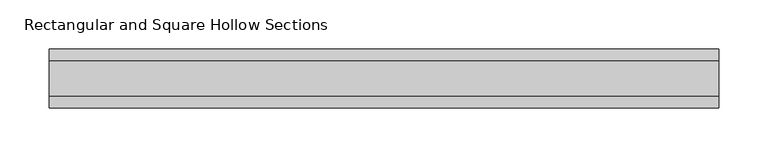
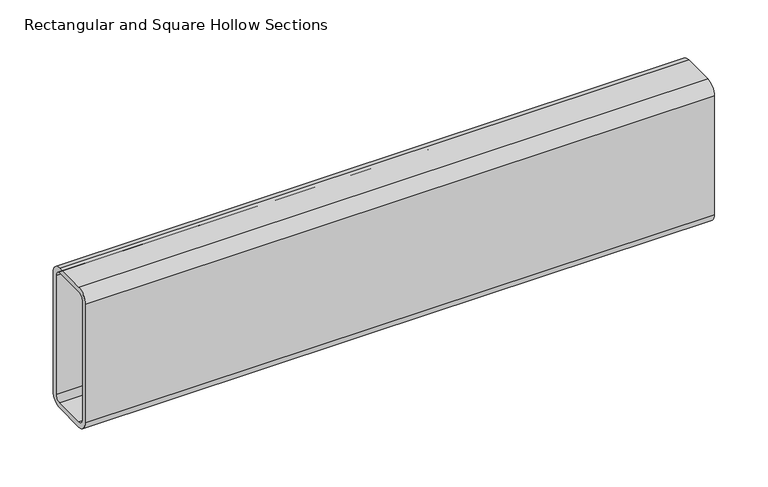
"""IFC4 building model written with IfcOpenShell, lengths in millimetres: beam geometry, Rectangular and Square Hollow Sections : TREC160x60x6."""

from ifc_helpers import new_model, si_unit, point, frame, frame_2d, origin, place, context, project, spatial, polyline, circle_curve, trimmed, segment, composite_curve, outline, extrude, source, transform, mapped, element, save


def rectangular_and_square_hollow_sections_b3987f33(model_context):
    return source(origin(), model_context, "Body", "SweptSolid", [
        extrude(outline(composite_curve([segment(polyline([(30.0, 68.0), (30.0, -68.0)]), True, "CONTINUOUS"), segment(trimmed(circle_curve(frame_2d((18.0, -68.0)), 12.0), [point((30.0, -68.0))], [point((18.0, -80.0))], False, "CARTESIAN"), True, "CONTINUOUS"), segment(polyline([(18.0, -80.0), (-18.0, -80.0)]), True, "CONTINUOUS"), segment(trimmed(circle_curve(frame_2d((-18.0, -68.0)), 12.0), [point((-18.0, -80.0))], [point((-30.0, -68.0))], False, "CARTESIAN"), True, "CONTINUOUS"), segment(polyline([(-30.0, -68.0), (-30.0, 68.0)]), True, "CONTINUOUS"), segment(trimmed(circle_curve(frame_2d((-18.0, 68.0)), 12.0), [point((-30.0, 68.0))], [point((-18.0, 80.0))], False, "CARTESIAN"), True, "CONTINUOUS"), segment(polyline([(-18.0, 80.0), (18.0, 80.0)]), True, "CONTINUOUS"), segment(trimmed(circle_curve(frame_2d((18.0, 68.0)), 12.0), [point((18.0, 80.0))], [point((30.0, 68.0))], False, "CARTESIAN"), True, "CONTINUOUS")], self_intersect=False), holes=[composite_curve([segment(trimmed(circle_curve(frame_2d((-18.0, 68.0)), 6.0), [point((-18.0, 74.0))], [point((-24.0, 68.0))], True, "CARTESIAN"), True, "CONTINUOUS"), segment(polyline([(-24.0, 68.0), (-24.0, -68.0)]), True, "CONTINUOUS"), segment(trimmed(circle_curve(frame_2d((-18.0, -68.0)), 6.0), [point((-24.0, -68.0))], [point((-18.0, -74.0))], True, "CARTESIAN"), True, "CONTINUOUS"), segment(polyline([(-18.0, -74.0), (18.0, -74.0)]), True, "CONTINUOUS"), segment(trimmed(circle_curve(frame_2d((18.0, -68.0)), 6.0), [point((18.0, -74.0))], [point((24.0, -68.0))], True, "CARTESIAN"), True, "CONTINUOUS"), segment(polyline([(24.0, -68.0), (24.0, 68.0)]), True, "CONTINUOUS"), segment(trimmed(circle_curve(frame_2d((18.0, 68.0)), 6.0), [point((24.0, 68.0))], [point((18.0, 74.0))], True, "CARTESIAN"), True, "CONTINUOUS"), segment(polyline([(18.0, 74.0), (-18.0, 74.0)]), True, "CONTINUOUS")], self_intersect=False)]), frame((-281.5, 0.0, 0.0), z_axis=(1.0, 0.0, 0.0), x_axis=(0.0, 1.0, 0.0)), (0.0, 0.0, 1.0), 681.0),
    ])


if __name__ == "__main__":
    model = new_model("IFC4")
    model_context = context("Model", 3, world=origin())
    ifc_project = project(units=[si_unit("LENGTHUNIT", "METRE", prefix="MILLI")], contexts=[model_context])
    site = spatial("IfcSite", under=ifc_project)
    building = spatial("IfcBuilding", under=site)
    placement = place(None, origin())
    rectangular_and_square_hollow_sections_shape = rectangular_and_square_hollow_sections_b3987f33(model_context)
    element("IfcBeam", 1, ObjectType="Rectangular and Square Hollow Sections : TREC160x60x6", at=placement, inside=building, context=model_context, shape_type="MappedRepresentation", body=[
        mapped(rectangular_and_square_hollow_sections_shape, transform((0.0, 0.0, 0.0), x_axis=(1.0, 0.0, 0.0), y_axis=(0.0, 1.0, 0.0), z_axis=(0.0, 0.0, 1.0))),
    ])
    save(model, "model.ifc")
